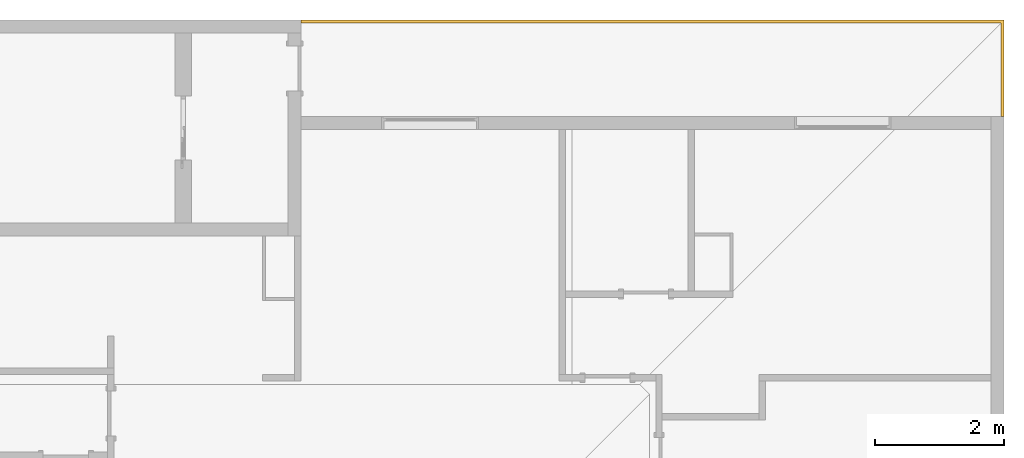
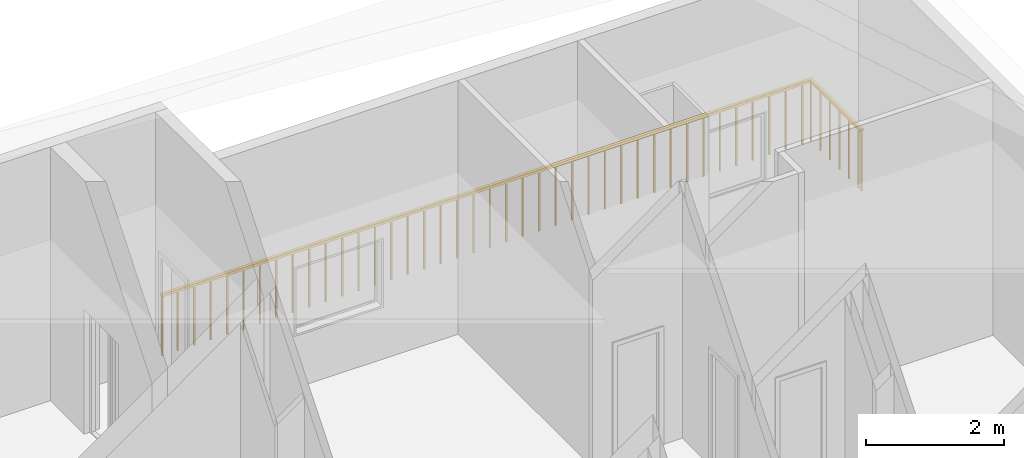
# One storey, part 8 of 8: 1 railing.
"""IFC2X3 building model written with IfcOpenShell, lengths in metres."""

from ifc_helpers import new_model, entity, si_unit, converted_unit, derived_unit, direction, frame, origin, place, context, subcontext, project, spatial, faceted_brep, material, material_list, element, save


model = new_model("IFC2X3")

# Units and contexts
model_context = context("Model", 3, precision=1e-05, world=origin(), true_north=direction((6.123031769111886e-17, 1.0)))
body_context = subcontext(model_context, "Body", "Model", "MODEL_VIEW")
ifc_project = project(units=[si_unit("LENGTHUNIT", "METRE"), si_unit("AREAUNIT", "SQUARE_METRE"), si_unit("VOLUMEUNIT", "CUBIC_METRE"), converted_unit("PLANEANGLEUNIT", "DEGREE", entity("IfcRatioMeasure", 0.017453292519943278), si_unit("PLANEANGLEUNIT", "RADIAN"), dimensions=[0, 0, 0, 0, 0, 0, 0]), si_unit("MASSUNIT", "GRAM", prefix="KILO"), derived_unit("MASSDENSITYUNIT", [(si_unit("MASSUNIT", "GRAM", prefix="KILO"), 1), (si_unit("LENGTHUNIT", "METRE"), -3)]), derived_unit("MOMENTOFINERTIAUNIT", [(si_unit("LENGTHUNIT", "METRE"), 4)]), si_unit("TIMEUNIT", "SECOND"), si_unit("FREQUENCYUNIT", "HERTZ"), si_unit("THERMODYNAMICTEMPERATUREUNIT", "DEGREE_CELSIUS"), derived_unit("THERMALTRANSMITTANCEUNIT", [(si_unit("MASSUNIT", "GRAM", prefix="KILO"), 1), (si_unit("THERMODYNAMICTEMPERATUREUNIT", "KELVIN"), -1), (si_unit("TIMEUNIT", "SECOND"), -3)]), derived_unit("VOLUMETRICFLOWRATEUNIT", [(si_unit("LENGTHUNIT", "METRE"), 3), (si_unit("TIMEUNIT", "SECOND"), -1)]), derived_unit("MASSFLOWRATEUNIT", [(si_unit("MASSUNIT", "GRAM", prefix="KILO"), 1), (si_unit("TIMEUNIT", "SECOND"), -1)]), derived_unit("ROTATIONALFREQUENCYUNIT", [(si_unit("TIMEUNIT", "SECOND"), -1)]), si_unit("ELECTRICCURRENTUNIT", "AMPERE"), si_unit("ELECTRICVOLTAGEUNIT", "VOLT"), si_unit("POWERUNIT", "WATT"), si_unit("FORCEUNIT", "NEWTON", prefix="KILO"), si_unit("ILLUMINANCEUNIT", "LUX"), si_unit("LUMINOUSFLUXUNIT", "LUMEN"), si_unit("LUMINOUSINTENSITYUNIT", "CANDELA"), derived_unit("USERDEFINED", [(si_unit("MASSUNIT", "GRAM", prefix="KILO"), -1), (si_unit("LENGTHUNIT", "METRE"), -2), (si_unit("TIMEUNIT", "SECOND"), 3), (si_unit("LUMINOUSFLUXUNIT", "LUMEN"), 1)]), derived_unit("SOUNDPOWERUNIT", [(si_unit("MASSUNIT", "GRAM", prefix="KILO"), 1), (si_unit("LENGTHUNIT", "METRE"), 2), (si_unit("TIMEUNIT", "SECOND"), -3)]), derived_unit("SOUNDPRESSUREUNIT", [(si_unit("MASSUNIT", "GRAM", prefix="KILO"), 1), (si_unit("LENGTHUNIT", "METRE"), -1), (si_unit("TIMEUNIT", "SECOND"), -2)]), derived_unit("LINEARVELOCITYUNIT", [(si_unit("LENGTHUNIT", "METRE"), 1), (si_unit("TIMEUNIT", "SECOND"), -1)]), si_unit("PRESSUREUNIT", "PASCAL"), derived_unit("USERDEFINED", [(si_unit("LENGTHUNIT", "METRE"), -2), (si_unit("MASSUNIT", "GRAM", prefix="KILO"), 1), (si_unit("TIMEUNIT", "SECOND"), -2)]), derived_unit("LINEARFORCEUNIT", [(si_unit("MASSUNIT", "GRAM", prefix="KILO"), 1), (si_unit("LENGTHUNIT", "METRE"), 1), (si_unit("TIMEUNIT", "SECOND"), -2), (si_unit("LENGTHUNIT", "METRE"), -1)]), derived_unit("PLANARFORCEUNIT", [(si_unit("MASSUNIT", "GRAM", prefix="KILO"), 1), (si_unit("LENGTHUNIT", "METRE"), 1), (si_unit("TIMEUNIT", "SECOND"), -2), (si_unit("LENGTHUNIT", "METRE"), -2)])], contexts=[model_context])

# Site, building, storey
site_placement = place(None, origin())
site = spatial("IfcSite", under=ifc_project, at=site_placement, Name="Default", CompositionType="ELEMENT")
building_placement = place(site_placement, origin())
building = spatial("IfcBuilding", under=site, at=building_placement, CompositionType="ELEMENT")
storey_placement = place(building_placement, frame((0.0, 0.0, 5.639999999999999)))
storey = spatial("IfcBuildingStorey", under=building, at=storey_placement, Name="F1", CompositionType="ELEMENT", Elevation=5.639999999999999)

# Railing
ifc_material = material(Name="<Unnamed>")
ifc_material_list = material_list([ifc_material, ifc_material, ifc_material, ifc_material, ifc_material, ifc_material, ifc_material, ifc_material, ifc_material, ifc_material, ifc_material, ifc_material, ifc_material, ifc_material, ifc_material, ifc_material, ifc_material, ifc_material, ifc_material, ifc_material, ifc_material, ifc_material, ifc_material, ifc_material, ifc_material, ifc_material, ifc_material, ifc_material, ifc_material, ifc_material, ifc_material, ifc_material, ifc_material, ifc_material, ifc_material, ifc_material, ifc_material, ifc_material, ifc_material, ifc_material, ifc_material, ifc_material, ifc_material, ifc_material, ifc_material, ifc_material, ifc_material, ifc_material])
railing_placement = place(storey_placement, frame((18.007683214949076, 4.502607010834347, 0.0)))
element("IfcRailing", 1, at=railing_placement, inside=storey, material=ifc_material_list, Name="Railing:1100mm", ObjectType="Railing:1100mm", PredefinedType="NOTDEFINED", context=body_context, shape_type="Brep", body=[
    faceted_brep([(10.887499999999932, 0.11249999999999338, 1.0499999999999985), (10.887499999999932, 0.11249999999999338, 0.0), (10.862499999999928, 0.11249999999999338, 0.0), (10.862499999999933, 0.11249999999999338, 1.0499999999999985), (10.862499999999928, 0.08749999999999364, 0.0), (10.862499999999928, 0.0874999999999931, 1.0499999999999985), (10.887499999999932, 0.08749999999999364, 0.0), (10.887499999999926, 0.08749999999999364, 1.0499999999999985)], [[[0, 1, 2, 3]], [[3, 2, 4, 5]], [[5, 4, 6, 7]], [[1, 0, 7, 6]], [[0, 3, 5, 7]], [[2, 1, 6, 4]]]),
    faceted_brep([(10.887499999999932, 0.3874999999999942, 1.0499999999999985), (10.887499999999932, 0.3874999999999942, 0.0), (10.862499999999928, 0.3874999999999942, 0.0), (10.862499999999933, 0.3874999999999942, 1.0499999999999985), (10.862499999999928, 0.36249999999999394, 0.0), (10.862499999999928, 0.3624999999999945, 1.0499999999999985), (10.887499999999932, 0.36249999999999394, 0.0), (10.887499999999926, 0.36249999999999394, 1.0499999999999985)], [[[0, 1, 2, 3]], [[3, 2, 4, 5]], [[5, 4, 6, 7]], [[1, 0, 7, 6]], [[0, 3, 5, 7]], [[2, 1, 6, 4]]]),
    faceted_brep([(10.887499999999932, 0.6624999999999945, 1.0499999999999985), (10.887499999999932, 0.6624999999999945, 0.0), (10.862499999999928, 0.6624999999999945, 0.0), (10.862499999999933, 0.6624999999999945, 1.0499999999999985), (10.862499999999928, 0.6374999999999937, 0.0), (10.862499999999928, 0.6374999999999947, 1.0499999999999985), (10.887499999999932, 0.6374999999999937, 0.0), (10.887499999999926, 0.6374999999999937, 1.0499999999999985)], [[[0, 1, 2, 3]], [[3, 2, 4, 5]], [[5, 4, 6, 7]], [[1, 0, 7, 6]], [[0, 3, 5, 7]], [[2, 1, 6, 4]]]),
    faceted_brep([(10.887499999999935, 0.9374999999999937, 1.0499999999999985), (10.887499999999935, 0.9374999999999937, 0.0), (10.862499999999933, 0.9374999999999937, 0.0), (10.862499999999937, 0.9374999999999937, 1.0499999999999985), (10.862499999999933, 0.9124999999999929, 0.0), (10.862499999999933, 0.912499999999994, 1.0499999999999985), (10.887499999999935, 0.9124999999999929, 0.0), (10.887499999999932, 0.9124999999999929, 1.0499999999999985)], [[[0, 1, 2, 3]], [[3, 2, 4, 5]], [[5, 4, 6, 7]], [[1, 0, 7, 6]], [[0, 3, 5, 7]], [[2, 1, 6, 4]]]),
    faceted_brep([(10.887499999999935, 1.212499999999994, 1.0499999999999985), (10.887499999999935, 1.212499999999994, 0.0), (10.862499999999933, 1.212499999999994, 0.0), (10.862499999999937, 1.212499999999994, 1.0499999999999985), (10.862499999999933, 1.1874999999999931, 0.0), (10.862499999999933, 1.1874999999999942, 1.0499999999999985), (10.887499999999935, 1.1874999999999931, 0.0), (10.887499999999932, 1.1874999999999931, 1.0499999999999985)], [[[0, 1, 2, 3]], [[3, 2, 4, 5]], [[5, 4, 6, 7]], [[1, 0, 7, 6]], [[0, 3, 5, 7]], [[2, 1, 6, 4]]]),
    faceted_brep([(10.712500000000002, 1.4874999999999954, 1.0499999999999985), (10.712500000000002, 1.4874999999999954, 0.0), (10.712500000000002, 1.4624999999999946, 0.0), (10.712500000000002, 1.4624999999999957, 1.0499999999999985), (10.737500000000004, 1.4624999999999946, 0.0), (10.7375, 1.4624999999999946, 1.0499999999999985), (10.737500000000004, 1.4874999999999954, 0.0), (10.737500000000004, 1.4874999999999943, 1.0499999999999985)], [[[0, 1, 2, 3]], [[3, 2, 4, 5]], [[5, 4, 6, 7]], [[1, 0, 7, 6]], [[0, 3, 5, 7]], [[2, 1, 6, 4]]]),
    faceted_brep([(10.437500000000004, 1.4874999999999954, 1.0499999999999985), (10.437500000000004, 1.4874999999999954, 0.0), (10.437500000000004, 1.4624999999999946, 0.0), (10.437500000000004, 1.4624999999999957, 1.0499999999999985), (10.462500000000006, 1.4624999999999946, 0.0), (10.462500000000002, 1.4624999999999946, 1.0499999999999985), (10.462500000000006, 1.4874999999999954, 0.0), (10.462500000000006, 1.4874999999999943, 1.0499999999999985)], [[[0, 1, 2, 3]], [[3, 2, 4, 5]], [[5, 4, 6, 7]], [[1, 0, 7, 6]], [[0, 3, 5, 7]], [[2, 1, 6, 4]]]),
    faceted_brep([(10.162500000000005, 1.4874999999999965, 1.0499999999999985), (10.162500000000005, 1.4874999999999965, 0.0), (10.162500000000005, 1.4624999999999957, 0.0), (10.162500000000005, 1.4624999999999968, 1.0499999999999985), (10.187500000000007, 1.4624999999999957, 0.0), (10.187500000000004, 1.4624999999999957, 1.0499999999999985), (10.187500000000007, 1.4874999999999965, 0.0), (10.187500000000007, 1.4874999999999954, 1.0499999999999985)], [[[0, 1, 2, 3]], [[3, 2, 4, 5]], [[5, 4, 6, 7]], [[1, 0, 7, 6]], [[0, 3, 5, 7]], [[2, 1, 6, 4]]]),
    faceted_brep([(9.887499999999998, 1.4874999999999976, 1.0499999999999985), (9.887499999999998, 1.4874999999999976, 0.0), (9.887499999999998, 1.4624999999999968, 0.0), (9.887499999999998, 1.462499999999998, 1.0499999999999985), (9.912500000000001, 1.4624999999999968, 0.0), (9.912499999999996, 1.4624999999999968, 1.0499999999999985), (9.912500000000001, 1.4874999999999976, 0.0), (9.912500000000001, 1.4874999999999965, 1.0499999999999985)], [[[0, 1, 2, 3]], [[3, 2, 4, 5]], [[5, 4, 6, 7]], [[1, 0, 7, 6]], [[0, 3, 5, 7]], [[2, 1, 6, 4]]]),
    faceted_brep([(9.6125, 1.4874999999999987, 1.0499999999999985), (9.6125, 1.4874999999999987, 0.0), (9.6125, 1.462499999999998, 0.0), (9.6125, 1.4624999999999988, 1.0499999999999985), (9.637500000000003, 1.462499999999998, 0.0), (9.6375, 1.462499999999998, 1.0499999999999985), (9.637500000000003, 1.4874999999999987, 0.0), (9.637500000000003, 1.4874999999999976, 1.0499999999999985)], [[[0, 1, 2, 3]], [[3, 2, 4, 5]], [[5, 4, 6, 7]], [[1, 0, 7, 6]], [[0, 3, 5, 7]], [[2, 1, 6, 4]]]),
    faceted_brep([(9.337500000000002, 1.4874999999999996, 1.0499999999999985), (9.337500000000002, 1.4874999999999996, 0.0), (9.337500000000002, 1.4624999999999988, 0.0), (9.337500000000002, 1.4625, 1.0499999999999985), (9.362500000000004, 1.4624999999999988, 0.0), (9.3625, 1.4624999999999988, 1.0499999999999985), (9.362500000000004, 1.4874999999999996, 0.0), (9.362500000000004, 1.4874999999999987, 1.0499999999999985)], [[[0, 1, 2, 3]], [[3, 2, 4, 5]], [[5, 4, 6, 7]], [[1, 0, 7, 6]], [[0, 3, 5, 7]], [[2, 1, 6, 4]]]),
    faceted_brep([(9.062500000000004, 1.4875000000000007, 1.0499999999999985), (9.062500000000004, 1.4875000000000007, 0.0), (9.062500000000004, 1.4625, 0.0), (9.062500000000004, 1.462500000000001, 1.0499999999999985), (9.087500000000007, 1.4625, 0.0), (9.087500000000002, 1.4625, 1.0499999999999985), (9.087500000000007, 1.4875000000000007, 0.0), (9.087500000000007, 1.4874999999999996, 1.0499999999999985)], [[[0, 1, 2, 3]], [[3, 2, 4, 5]], [[5, 4, 6, 7]], [[1, 0, 7, 6]], [[0, 3, 5, 7]], [[2, 1, 6, 4]]]),
    faceted_brep([(8.787500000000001, 1.4875000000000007, 1.0499999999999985), (8.787500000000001, 1.4875000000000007, 0.0), (8.787500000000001, 1.4625, 0.0), (8.787500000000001, 1.462500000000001, 1.0499999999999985), (8.812500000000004, 1.4625, 0.0), (8.8125, 1.4625, 1.0499999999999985), (8.812500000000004, 1.4875000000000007, 0.0), (8.812500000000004, 1.4874999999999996, 1.0499999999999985)], [[[0, 1, 2, 3]], [[3, 2, 4, 5]], [[5, 4, 6, 7]], [[1, 0, 7, 6]], [[0, 3, 5, 7]], [[2, 1, 6, 4]]]),
    faceted_brep([(8.5125, 1.4875000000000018, 1.0499999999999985), (8.5125, 1.4875000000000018, 0.0), (8.5125, 1.462500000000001, 0.0), (8.5125, 1.4625000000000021, 1.0499999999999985), (8.537500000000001, 1.462500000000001, 0.0), (8.537499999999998, 1.462500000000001, 1.0499999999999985), (8.537500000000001, 1.4875000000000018, 0.0), (8.537500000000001, 1.4875000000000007, 1.0499999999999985)], [[[0, 1, 2, 3]], [[3, 2, 4, 5]], [[5, 4, 6, 7]], [[1, 0, 7, 6]], [[0, 3, 5, 7]], [[2, 1, 6, 4]]]),
    faceted_brep([(8.2375, 1.487500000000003, 1.0499999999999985), (8.2375, 1.487500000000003, 0.0), (8.2375, 1.4625000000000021, 0.0), (8.2375, 1.4625000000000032, 1.0499999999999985), (8.262500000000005, 1.4625000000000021, 0.0), (8.2625, 1.4625000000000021, 1.0499999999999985), (8.262500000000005, 1.487500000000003, 0.0), (8.262500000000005, 1.4875000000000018, 1.0499999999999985)], [[[0, 1, 2, 3]], [[3, 2, 4, 5]], [[5, 4, 6, 7]], [[1, 0, 7, 6]], [[0, 3, 5, 7]], [[2, 1, 6, 4]]]),
    faceted_brep([(7.962500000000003, 1.487500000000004, 1.0499999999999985), (7.962500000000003, 1.487500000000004, 0.0), (7.962500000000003, 1.4625000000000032, 0.0), (7.962500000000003, 1.4625000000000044, 1.0499999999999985), (7.987500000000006, 1.4625000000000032, 0.0), (7.987500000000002, 1.4625000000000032, 1.0499999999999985), (7.987500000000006, 1.487500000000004, 0.0), (7.987500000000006, 1.487500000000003, 1.0499999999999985)], [[[0, 1, 2, 3]], [[3, 2, 4, 5]], [[5, 4, 6, 7]], [[1, 0, 7, 6]], [[0, 3, 5, 7]], [[2, 1, 6, 4]]]),
    faceted_brep([(7.6875, 1.4875000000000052, 1.0499999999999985), (7.6875, 1.4875000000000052, 0.0), (7.6875, 1.4625000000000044, 0.0), (7.6875, 1.4625000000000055, 1.0499999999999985), (7.712500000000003, 1.4625000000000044, 0.0), (7.712499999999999, 1.4625000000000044, 1.0499999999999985), (7.712500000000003, 1.4875000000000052, 0.0), (7.712500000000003, 1.487500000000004, 1.0499999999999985)], [[[0, 1, 2, 3]], [[3, 2, 4, 5]], [[5, 4, 6, 7]], [[1, 0, 7, 6]], [[0, 3, 5, 7]], [[2, 1, 6, 4]]]),
    faceted_brep([(7.412500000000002, 1.4875000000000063, 1.0499999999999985), (7.412500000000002, 1.4875000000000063, 0.0), (7.412500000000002, 1.4625000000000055, 0.0), (7.412500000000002, 1.4625000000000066, 1.0499999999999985), (7.437500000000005, 1.4625000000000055, 0.0), (7.437500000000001, 1.4625000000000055, 1.0499999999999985), (7.437500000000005, 1.4875000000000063, 0.0), (7.437500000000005, 1.4875000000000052, 1.0499999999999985)], [[[0, 1, 2, 3]], [[3, 2, 4, 5]], [[5, 4, 6, 7]], [[1, 0, 7, 6]], [[0, 3, 5, 7]], [[2, 1, 6, 4]]]),
    faceted_brep([(7.137499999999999, 1.4875000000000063, 1.0499999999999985), (7.137499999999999, 1.4875000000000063, 0.0), (7.137499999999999, 1.4625000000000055, 0.0), (7.137499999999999, 1.4625000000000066, 1.0499999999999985), (7.162500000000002, 1.4625000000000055, 0.0), (7.162499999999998, 1.4625000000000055, 1.0499999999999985), (7.162500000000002, 1.4875000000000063, 0.0), (7.162500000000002, 1.4875000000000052, 1.0499999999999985)], [[[0, 1, 2, 3]], [[3, 2, 4, 5]], [[5, 4, 6, 7]], [[1, 0, 7, 6]], [[0, 3, 5, 7]], [[2, 1, 6, 4]]]),
    faceted_brep([(6.862500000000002, 1.4875000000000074, 1.0499999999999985), (6.862500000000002, 1.4875000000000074, 0.0), (6.862500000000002, 1.4625000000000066, 0.0), (6.862500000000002, 1.4625000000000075, 1.0499999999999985), (6.887500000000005, 1.4625000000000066, 0.0), (6.8875, 1.4625000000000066, 1.0499999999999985), (6.887500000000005, 1.4875000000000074, 0.0), (6.887500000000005, 1.4875000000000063, 1.0499999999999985)], [[[0, 1, 2, 3]], [[3, 2, 4, 5]], [[5, 4, 6, 7]], [[1, 0, 7, 6]], [[0, 3, 5, 7]], [[2, 1, 6, 4]]]),
    faceted_brep([(6.587500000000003, 1.4875000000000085, 1.0499999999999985), (6.587500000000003, 1.4875000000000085, 0.0), (6.587500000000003, 1.4625000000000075, 0.0), (6.587500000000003, 1.4625000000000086, 1.0499999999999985), (6.612500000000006, 1.4625000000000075, 0.0), (6.612500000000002, 1.4625000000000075, 1.0499999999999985), (6.612500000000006, 1.4875000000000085, 0.0), (6.612500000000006, 1.4875000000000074, 1.0499999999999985)], [[[0, 1, 2, 3]], [[3, 2, 4, 5]], [[5, 4, 6, 7]], [[1, 0, 7, 6]], [[0, 3, 5, 7]], [[2, 1, 6, 4]]]),
    faceted_brep([(6.312500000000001, 1.4875000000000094, 1.0499999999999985), (6.312500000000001, 1.4875000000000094, 0.0), (6.312500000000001, 1.4625000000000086, 0.0), (6.312500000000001, 1.4625000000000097, 1.0499999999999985), (6.337500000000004, 1.4625000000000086, 0.0), (6.3374999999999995, 1.4625000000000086, 1.0499999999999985), (6.337500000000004, 1.4875000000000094, 0.0), (6.337500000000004, 1.4875000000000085, 1.0499999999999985)], [[[0, 1, 2, 3]], [[3, 2, 4, 5]], [[5, 4, 6, 7]], [[1, 0, 7, 6]], [[0, 3, 5, 7]], [[2, 1, 6, 4]]]),
    faceted_brep([(6.037500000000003, 1.4875000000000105, 1.0499999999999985), (6.037500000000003, 1.4875000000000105, 0.0), (6.037500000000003, 1.4625000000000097, 0.0), (6.037500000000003, 1.4625000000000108, 1.0499999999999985), (6.062500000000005, 1.4625000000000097, 0.0), (6.062500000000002, 1.4625000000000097, 1.0499999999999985), (6.062500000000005, 1.4875000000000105, 0.0), (6.062500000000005, 1.4875000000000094, 1.0499999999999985)], [[[0, 1, 2, 3]], [[3, 2, 4, 5]], [[5, 4, 6, 7]], [[1, 0, 7, 6]], [[0, 3, 5, 7]], [[2, 1, 6, 4]]]),
    faceted_brep([(5.7625, 1.4875000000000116, 1.0499999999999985), (5.7625, 1.4875000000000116, 0.0), (5.7625, 1.4625000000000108, 0.0), (5.7625, 1.462500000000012, 1.0499999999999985), (5.787500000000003, 1.4625000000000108, 0.0), (5.787499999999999, 1.4625000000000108, 1.0499999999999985), (5.787500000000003, 1.4875000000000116, 0.0), (5.787500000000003, 1.4875000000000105, 1.0499999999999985)], [[[0, 1, 2, 3]], [[3, 2, 4, 5]], [[5, 4, 6, 7]], [[1, 0, 7, 6]], [[0, 3, 5, 7]], [[2, 1, 6, 4]]]),
    faceted_brep([(5.4875000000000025, 1.4875000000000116, 1.0499999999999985), (5.4875000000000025, 1.4875000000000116, 0.0), (5.4875000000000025, 1.4625000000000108, 0.0), (5.4875000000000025, 1.462500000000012, 1.0499999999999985), (5.5125000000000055, 1.4625000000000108, 0.0), (5.512500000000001, 1.4625000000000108, 1.0499999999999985), (5.5125000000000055, 1.4875000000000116, 0.0), (5.5125000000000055, 1.4875000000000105, 1.0499999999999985)], [[[0, 1, 2, 3]], [[3, 2, 4, 5]], [[5, 4, 6, 7]], [[1, 0, 7, 6]], [[0, 3, 5, 7]], [[2, 1, 6, 4]]]),
    faceted_brep([(5.212500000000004, 1.4875000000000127, 1.0499999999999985), (5.212500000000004, 1.4875000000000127, 0.0), (5.212500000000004, 1.462500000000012, 0.0), (5.212500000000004, 1.462500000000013, 1.0499999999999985), (5.237500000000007, 1.462500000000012, 0.0), (5.2375000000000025, 1.462500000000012, 1.0499999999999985), (5.237500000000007, 1.4875000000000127, 0.0), (5.237500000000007, 1.4875000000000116, 1.0499999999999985)], [[[0, 1, 2, 3]], [[3, 2, 4, 5]], [[5, 4, 6, 7]], [[1, 0, 7, 6]], [[0, 3, 5, 7]], [[2, 1, 6, 4]]]),
    faceted_brep([(4.937500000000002, 1.4875000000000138, 1.0499999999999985), (4.937500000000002, 1.4875000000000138, 0.0), (4.937500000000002, 1.462500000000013, 0.0), (4.937500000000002, 1.4625000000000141, 1.0499999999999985), (4.962500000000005, 1.462500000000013, 0.0), (4.9625, 1.462500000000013, 1.0499999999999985), (4.962500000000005, 1.4875000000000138, 0.0), (4.962500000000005, 1.4875000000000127, 1.0499999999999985)], [[[0, 1, 2, 3]], [[3, 2, 4, 5]], [[5, 4, 6, 7]], [[1, 0, 7, 6]], [[0, 3, 5, 7]], [[2, 1, 6, 4]]]),
    faceted_brep([(4.662499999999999, 1.487500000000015, 1.0499999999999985), (4.662499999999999, 1.487500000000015, 0.0), (4.662499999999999, 1.4625000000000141, 0.0), (4.662499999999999, 1.4625000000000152, 1.0499999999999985), (4.687500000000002, 1.4625000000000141, 0.0), (4.687499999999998, 1.4625000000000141, 1.0499999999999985), (4.687500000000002, 1.487500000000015, 0.0), (4.687500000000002, 1.4875000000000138, 1.0499999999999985)], [[[0, 1, 2, 3]], [[3, 2, 4, 5]], [[5, 4, 6, 7]], [[1, 0, 7, 6]], [[0, 3, 5, 7]], [[2, 1, 6, 4]]]),
    faceted_brep([(4.387500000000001, 1.487500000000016, 1.0499999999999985), (4.387500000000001, 1.487500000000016, 0.0), (4.387500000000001, 1.4625000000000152, 0.0), (4.387500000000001, 1.4625000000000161, 1.0499999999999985), (4.412500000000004, 1.4625000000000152, 0.0), (4.4125, 1.4625000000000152, 1.0499999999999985), (4.412500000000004, 1.487500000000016, 0.0), (4.412500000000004, 1.487500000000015, 1.0499999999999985)], [[[0, 1, 2, 3]], [[3, 2, 4, 5]], [[5, 4, 6, 7]], [[1, 0, 7, 6]], [[0, 3, 5, 7]], [[2, 1, 6, 4]]]),
    faceted_brep([(4.112499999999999, 1.4875000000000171, 1.0499999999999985), (4.112499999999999, 1.4875000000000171, 0.0), (4.112499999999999, 1.4625000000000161, 0.0), (4.112499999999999, 1.4625000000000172, 1.0499999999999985), (4.137500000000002, 1.4625000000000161, 0.0), (4.1374999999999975, 1.4625000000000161, 1.0499999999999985), (4.137500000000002, 1.4875000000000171, 0.0), (4.137500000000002, 1.487500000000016, 1.0499999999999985)], [[[0, 1, 2, 3]], [[3, 2, 4, 5]], [[5, 4, 6, 7]], [[1, 0, 7, 6]], [[0, 3, 5, 7]], [[2, 1, 6, 4]]]),
    faceted_brep([(3.8375000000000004, 1.4875000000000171, 1.0499999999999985), (3.8375000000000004, 1.4875000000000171, 0.0), (3.8375000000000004, 1.4625000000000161, 0.0), (3.8375000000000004, 1.4625000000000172, 1.0499999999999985), (3.8625000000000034, 1.4625000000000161, 0.0), (3.862499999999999, 1.4625000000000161, 1.0499999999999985), (3.8625000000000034, 1.4875000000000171, 0.0), (3.8625000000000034, 1.487500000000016, 1.0499999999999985)], [[[0, 1, 2, 3]], [[3, 2, 4, 5]], [[5, 4, 6, 7]], [[1, 0, 7, 6]], [[0, 3, 5, 7]], [[2, 1, 6, 4]]]),
    faceted_brep([(3.562500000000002, 1.487500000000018, 1.0499999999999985), (3.562500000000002, 1.487500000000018, 0.0), (3.562500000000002, 1.4625000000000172, 0.0), (3.562500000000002, 1.4625000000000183, 1.0499999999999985), (3.5875000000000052, 1.4625000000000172, 0.0), (3.587500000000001, 1.4625000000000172, 1.0499999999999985), (3.5875000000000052, 1.487500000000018, 0.0), (3.5875000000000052, 1.4875000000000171, 1.0499999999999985)], [[[0, 1, 2, 3]], [[3, 2, 4, 5]], [[5, 4, 6, 7]], [[1, 0, 7, 6]], [[0, 3, 5, 7]], [[2, 1, 6, 4]]]),
    faceted_brep([(3.2874999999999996, 1.4875000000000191, 1.0499999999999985), (3.2874999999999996, 1.4875000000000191, 0.0), (3.2874999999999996, 1.4625000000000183, 0.0), (3.2874999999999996, 1.4625000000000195, 1.0499999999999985), (3.3125000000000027, 1.4625000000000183, 0.0), (3.3124999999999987, 1.4625000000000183, 1.0499999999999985), (3.3125000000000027, 1.4875000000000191, 0.0), (3.3125000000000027, 1.487500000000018, 1.0499999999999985)], [[[0, 1, 2, 3]], [[3, 2, 4, 5]], [[5, 4, 6, 7]], [[1, 0, 7, 6]], [[0, 3, 5, 7]], [[2, 1, 6, 4]]]),
    faceted_brep([(3.0125000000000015, 1.4875000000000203, 1.0499999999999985), (3.0125000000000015, 1.4875000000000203, 0.0), (3.0125000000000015, 1.4625000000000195, 0.0), (3.0125000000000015, 1.4625000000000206, 1.0499999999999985), (3.0375000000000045, 1.4625000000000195, 0.0), (3.0375000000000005, 1.4625000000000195, 1.0499999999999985), (3.0375000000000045, 1.4875000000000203, 0.0), (3.0375000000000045, 1.4875000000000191, 1.0499999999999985)], [[[0, 1, 2, 3]], [[3, 2, 4, 5]], [[5, 4, 6, 7]], [[1, 0, 7, 6]], [[0, 3, 5, 7]], [[2, 1, 6, 4]]]),
    faceted_brep([(2.737500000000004, 1.4875000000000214, 1.0499999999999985), (2.737500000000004, 1.4875000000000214, 0.0), (2.737500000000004, 1.4625000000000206, 0.0), (2.737500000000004, 1.4625000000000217, 1.0499999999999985), (2.7625000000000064, 1.4625000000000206, 0.0), (2.7625000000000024, 1.4625000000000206, 1.0499999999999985), (2.7625000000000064, 1.4875000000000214, 0.0), (2.7625000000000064, 1.4875000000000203, 1.0499999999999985)], [[[0, 1, 2, 3]], [[3, 2, 4, 5]], [[5, 4, 6, 7]], [[1, 0, 7, 6]], [[0, 3, 5, 7]], [[2, 1, 6, 4]]]),
    faceted_brep([(2.4625000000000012, 1.4875000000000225, 1.0499999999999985), (2.4625000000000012, 1.4875000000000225, 0.0), (2.4625000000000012, 1.4625000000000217, 0.0), (2.4625000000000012, 1.4625000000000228, 1.0499999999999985), (2.4875000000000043, 1.4625000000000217, 0.0), (2.4875, 1.4625000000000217, 1.0499999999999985), (2.4875000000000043, 1.4875000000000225, 0.0), (2.4875000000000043, 1.4875000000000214, 1.0499999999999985)], [[[0, 1, 2, 3]], [[3, 2, 4, 5]], [[5, 4, 6, 7]], [[1, 0, 7, 6]], [[0, 3, 5, 7]], [[2, 1, 6, 4]]]),
    faceted_brep([(2.1874999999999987, 1.4875000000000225, 1.0499999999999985), (2.1874999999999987, 1.4875000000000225, 0.0), (2.1874999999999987, 1.4625000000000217, 0.0), (2.1874999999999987, 1.4625000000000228, 1.0499999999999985), (2.2125000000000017, 1.4625000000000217, 0.0), (2.2124999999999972, 1.4625000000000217, 1.0499999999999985), (2.2125000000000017, 1.4875000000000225, 0.0), (2.2125000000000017, 1.4875000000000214, 1.0499999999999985)], [[[0, 1, 2, 3]], [[3, 2, 4, 5]], [[5, 4, 6, 7]], [[1, 0, 7, 6]], [[0, 3, 5, 7]], [[2, 1, 6, 4]]]),
    faceted_brep([(1.9125000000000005, 1.4875000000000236, 1.0499999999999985), (1.9125000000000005, 1.4875000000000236, 0.0), (1.9125000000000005, 1.4625000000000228, 0.0), (1.9125000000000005, 1.462500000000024, 1.0499999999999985), (1.9375000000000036, 1.4625000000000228, 0.0), (1.9374999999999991, 1.4625000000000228, 1.0499999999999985), (1.9375000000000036, 1.4875000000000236, 0.0), (1.9375000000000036, 1.4875000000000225, 1.0499999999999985)], [[[0, 1, 2, 3]], [[3, 2, 4, 5]], [[5, 4, 6, 7]], [[1, 0, 7, 6]], [[0, 3, 5, 7]], [[2, 1, 6, 4]]]),
    faceted_brep([(1.6375000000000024, 1.4875000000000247, 1.0499999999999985), (1.6375000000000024, 1.4875000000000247, 0.0), (1.6375000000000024, 1.462500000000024, 0.0), (1.6375000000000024, 1.4625000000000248, 1.0499999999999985), (1.6625000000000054, 1.462500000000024, 0.0), (1.662500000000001, 1.462500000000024, 1.0499999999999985), (1.6625000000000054, 1.4875000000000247, 0.0), (1.6625000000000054, 1.4875000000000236, 1.0499999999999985)], [[[0, 1, 2, 3]], [[3, 2, 4, 5]], [[5, 4, 6, 7]], [[1, 0, 7, 6]], [[0, 3, 5, 7]], [[2, 1, 6, 4]]]),
    faceted_brep([(1.362500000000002, 1.4875000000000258, 1.0499999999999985), (1.362500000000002, 1.4875000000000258, 0.0), (1.362500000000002, 1.4625000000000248, 0.0), (1.362500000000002, 1.462500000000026, 1.0499999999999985), (1.3875000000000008, 1.4625000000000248, 0.0), (1.3875000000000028, 1.4625000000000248, 1.0499999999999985), (1.3875000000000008, 1.4875000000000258, 0.0), (1.3875000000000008, 1.4875000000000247, 1.0499999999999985)], [[[0, 1, 2, 3]], [[3, 2, 4, 5]], [[5, 4, 6, 7]], [[1, 0, 7, 6]], [[0, 3, 5, 7]], [[2, 1, 6, 4]]]),
    faceted_brep([(1.087500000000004, 1.4875000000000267, 1.0499999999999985), (1.087500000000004, 1.4875000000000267, 0.0), (1.087500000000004, 1.462500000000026, 0.0), (1.087500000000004, 1.462500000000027, 1.0499999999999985), (1.1125000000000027, 1.462500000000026, 0.0), (1.112500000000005, 1.462500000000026, 1.0499999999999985), (1.1125000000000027, 1.4875000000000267, 0.0), (1.1125000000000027, 1.4875000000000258, 1.0499999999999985)], [[[0, 1, 2, 3]], [[3, 2, 4, 5]], [[5, 4, 6, 7]], [[1, 0, 7, 6]], [[0, 3, 5, 7]], [[2, 1, 6, 4]]]),
    faceted_brep([(0.8125000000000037, 1.4875000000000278, 1.0499999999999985), (0.8125000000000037, 1.4875000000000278, 0.0), (0.8125000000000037, 1.462500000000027, 0.0), (0.8125000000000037, 1.462500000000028, 1.0499999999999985), (0.8375000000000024, 1.462500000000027, 0.0), (0.8375000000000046, 1.462500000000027, 1.0499999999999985), (0.8375000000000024, 1.4875000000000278, 0.0), (0.8375000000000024, 1.4875000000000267, 1.0499999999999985)], [[[0, 1, 2, 3]], [[3, 2, 4, 5]], [[5, 4, 6, 7]], [[1, 0, 7, 6]], [[0, 3, 5, 7]], [[2, 1, 6, 4]]]),
    faceted_brep([(0.5375000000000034, 1.4875000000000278, 1.0499999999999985), (0.5375000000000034, 1.4875000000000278, 0.0), (0.5375000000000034, 1.462500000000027, 0.0), (0.5375000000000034, 1.462500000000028, 1.0499999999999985), (0.5625000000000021, 1.462500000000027, 0.0), (0.5625000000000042, 1.462500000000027, 1.0499999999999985), (0.5625000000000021, 1.4875000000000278, 0.0), (0.5625000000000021, 1.4875000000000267, 1.0499999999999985)], [[[0, 1, 2, 3]], [[3, 2, 4, 5]], [[5, 4, 6, 7]], [[1, 0, 7, 6]], [[0, 3, 5, 7]], [[2, 1, 6, 4]]]),
    faceted_brep([(0.2625000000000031, 1.487500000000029, 1.0499999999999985), (0.2625000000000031, 1.487500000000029, 0.0), (0.2625000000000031, 1.462500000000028, 0.0), (0.2625000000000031, 1.4625000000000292, 1.0499999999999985), (0.2875000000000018, 1.462500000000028, 0.0), (0.287500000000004, 1.462500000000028, 1.0499999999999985), (0.2875000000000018, 1.487500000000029, 0.0), (0.2875000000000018, 1.4875000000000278, 1.0499999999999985)], [[[0, 1, 2, 3]], [[3, 2, 4, 5]], [[5, 4, 6, 7]], [[1, 0, 7, 6]], [[0, 3, 5, 7]], [[2, 1, 6, 4]]]),
    faceted_brep([(10.862499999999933, 1.4874999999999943, 1.0499999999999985), (10.862499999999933, 1.4874999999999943, 0.0), (10.862499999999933, 1.4624999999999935, 0.0), (10.862499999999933, 1.4624999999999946, 1.0499999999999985), (10.887499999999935, 1.4624999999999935, 0.0), (10.887499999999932, 1.4624999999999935, 1.0499999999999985), (10.887499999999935, 1.4874999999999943, 0.0), (10.887499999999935, 1.4874999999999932, 1.0499999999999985)], [[[0, 1, 2, 3]], [[3, 2, 4, 5]], [[5, 4, 6, 7]], [[1, 0, 7, 6]], [[0, 3, 5, 7]], [[2, 1, 6, 4]]]),
    faceted_brep([(10.887499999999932, 0.02499999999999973, 1.0499999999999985), (10.887499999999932, 0.02499999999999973, 0.0), (10.862499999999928, 0.02499999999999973, 0.0), (10.862499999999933, 0.02499999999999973, 1.0499999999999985), (10.862499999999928, 0.0, 0.0), (10.862499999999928, 0.0, 1.0499999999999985), (10.887499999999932, 0.0, 0.0), (10.887499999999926, 0.0, 1.0499999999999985)], [[[0, 1, 2, 3]], [[3, 2, 4, 5]], [[5, 4, 6, 7]], [[1, 0, 7, 6]], [[0, 3, 5, 7]], [[2, 1, 6, 4]]]),
    faceted_brep([(0.0, 1.48750000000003, 1.0499999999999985), (0.0, 1.48750000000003, 0.0), (0.0, 1.4625000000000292, 0.0), (0.0, 1.4625000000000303, 1.0499999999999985), (0.025000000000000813, 1.4625000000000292, 0.0), (0.025000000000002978, 1.4625000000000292, 1.0499999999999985), (0.025000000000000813, 1.48750000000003, 0.0), (0.025000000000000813, 1.487500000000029, 1.0499999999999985)], [[[0, 1, 2, 3]], [[3, 2, 4, 5]], [[5, 4, 6, 7]], [[1, 0, 7, 6]], [[0, 3, 5, 7]], [[2, 1, 6, 4]]]),
    faceted_brep([(0.0, 1.45000000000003, 1.099999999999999), (0.0, 1.5000000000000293, 1.099999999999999), (0.0, 1.5000000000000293, 1.0499999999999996), (0.0, 1.45000000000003, 1.0499999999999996), (10.849999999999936, 1.4499999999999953, 1.099999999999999), (10.899999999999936, 1.4999999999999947, 1.099999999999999), (10.899999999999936, 1.4999999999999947, 1.0499999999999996), (10.84999999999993, 1.449999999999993, 1.0499999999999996), (10.849999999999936, 0.0, 1.099999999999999), (10.849999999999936, 0.0, 1.0499999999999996), (10.899999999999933, 0.0, 1.0499999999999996), (10.899999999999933, 0.0, 1.099999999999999)], [[[0, 1, 2, 3]], [[1, 0, 4, 5]], [[2, 1, 5, 6]], [[3, 2, 6, 7]], [[0, 3, 7, 4]], [[8, 9, 10, 11]], [[5, 4, 8, 11]], [[6, 5, 11, 10]], [[7, 6, 10, 9]], [[4, 7, 9, 8]]]),
])

save(model, "model.ifc")
